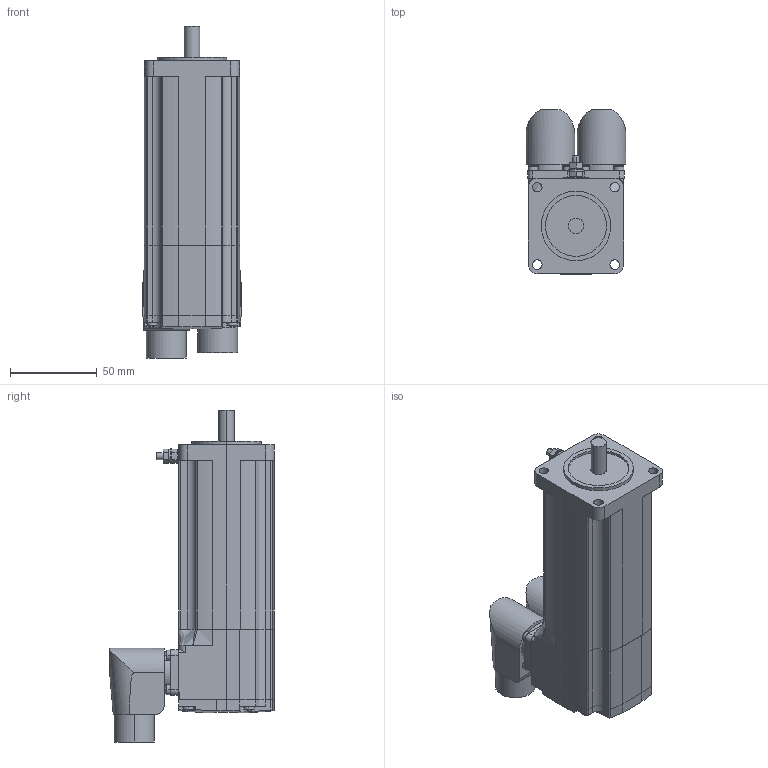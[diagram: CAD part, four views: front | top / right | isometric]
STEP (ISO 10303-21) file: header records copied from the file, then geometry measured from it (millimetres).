
FILE_DESCRIPTION (( 'STEP AP214' ), '1' );
FILE_NAME ('SH30552x0xA2100.STEP', '2013-11-29T07:14:19', ( 'Windows User' ), ( 'Schneider-Electric' ), 'SwSTEP 2.0', 'SolidWorks 2010', '' );
FILE_SCHEMA (( 'AUTOMOTIVE_DESIGN' ));
Length unit declared in the file: millimetre
Products named in the file (7): 1-100011007_K-TOPFGEHÄUSE SH3-055X_000_Topfgehäuse SH30552 ohne Passfeder; 1-100011008_K-LAGERSCHILD SH3-055X-A UND F_000_Lagerschild SH3-055x-A; 1-100011009_K-DECKEL SH3-055X_000_Deckel SH3-055x; 1-100011011_K-ERDUNGSBOLZEN M4_000; K-ENCODER-CONINVERS-ABGEW_ENCODER-CONINVERS-ABGEWINKELT_000_Single- MultiTurn; K-POWER-CONINVERS-ABGEWIN_POWER-CONINVERS-ABGEWINKELT_000_ohne Bremse; SH30552x0xA2100
Assembly tree (6 placements, depth 2):
  SH30552x0xA2100
    1-100011007_K-TOPFGEHÄUSE SH3-055X_000_Topfgehäuse SH30552 ohne Passfeder
    1-100011011_K-ERDUNGSBOLZEN M4_000
    1-100011009_K-DECKEL SH3-055X_000_Deckel SH3-055x
    K-ENCODER-CONINVERS-ABGEW_ENCODER-CONINVERS-ABGEWINKELT_000_Single- MultiTurn
    K-POWER-CONINVERS-ABGEWIN_POWER-CONINVERS-ABGEWINKELT_000_ohne Bremse
    1-100011008_K-LAGERSCHILD SH3-055X-A UND F_000_Lagerschild SH3-055x-A
Bounding box: 57.5 x 94.5 x 190.95 mm (x, y, z)
Volume: 484546.6 mm3; surface area: 66896.8 mm2
Topology: 6 solids, 6 shells, 386 faces, 972 edges, 643 vertices
Faces by surface type: cylinder 183, plane 166, torus 16, bspline 12, cone 5, sphere 4
Entity records: 13330 total; most frequent: CARTESIAN_POINT 3489, DIRECTION 2097, ORIENTED_EDGE 1940, EDGE_CURVE 970, AXIS2_PLACEMENT_3D 821, VERTEX_POINT 643, VECTOR 455, LINE 455
